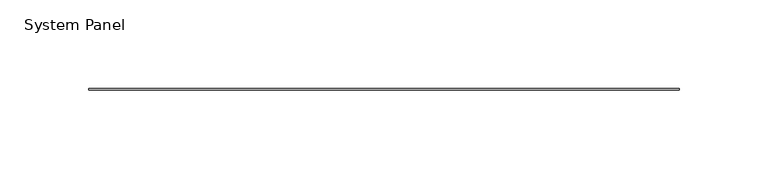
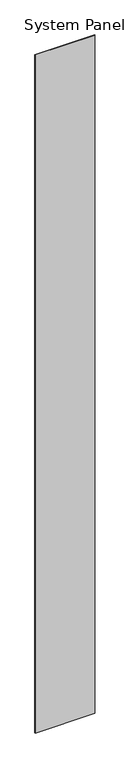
"""IFC4 building model written with IfcOpenShell, lengths in millimetres: plate geometry, System Panel : Stratco_Hiland_Tray."""

from ifc_helpers import new_model, si_unit, origin, origin_with_axes, place, context, project, spatial, polyline, outline, extrude, source, transform, mapped, element, save


def system_panel_a0a674ec(model_context):
    return source(origin(), model_context, "Body", "SweptSolid", [
        extrude(outline(polyline([(166.7691801, 2.5), (-166.7691801, 2.5), (-166.7691801, 3.5), (166.7691801, 3.5), (166.7691801, 2.5)])), origin_with_axes(), (0.0, 0.0, 1.0), 4000.0),
    ])


if __name__ == "__main__":
    model = new_model("IFC4")
    model_context = context("Model", 3, world=origin())
    ifc_project = project(units=[si_unit("LENGTHUNIT", "METRE", prefix="MILLI")], contexts=[model_context])
    site = spatial("IfcSite", under=ifc_project)
    building = spatial("IfcBuilding", under=site)
    placement = place(None, origin())
    system_panel_shape = system_panel_a0a674ec(model_context)
    element("IfcPlate", 1, ObjectType="System Panel : Stratco_Hiland_Tray", at=placement, inside=building, context=model_context, shape_type="MappedRepresentation", body=[
        mapped(system_panel_shape, transform((0.0, 0.0, 0.0), x_axis=(1.0, 0.0, 0.0), y_axis=(0.0, 1.0, 0.0), z_axis=(0.0, 0.0, 1.0))),
    ])
    save(model, "model.ifc")
